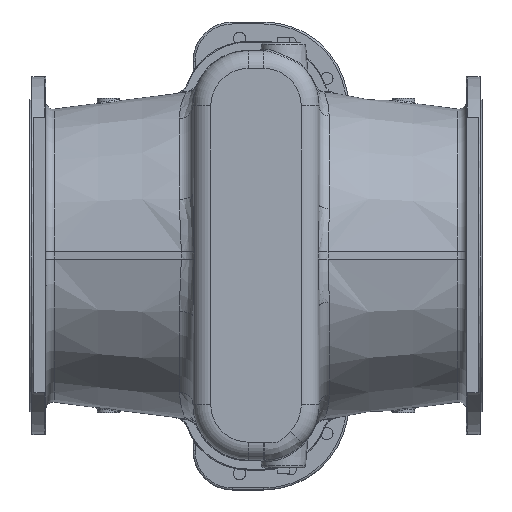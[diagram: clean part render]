
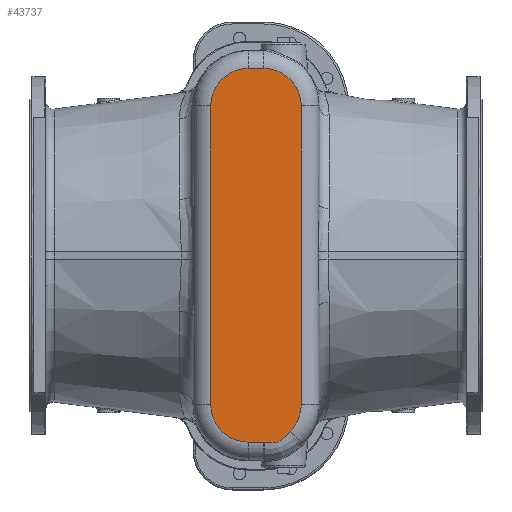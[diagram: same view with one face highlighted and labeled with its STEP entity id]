
A CAD part, top view. The second image highlights one B-rep face of the part: STEP entity #43737.
In plain terms, the highlighted planar face has unit normal (0, 0, 1).
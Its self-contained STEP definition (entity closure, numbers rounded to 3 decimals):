
#2569=B_SPLINE_CURVE_WITH_KNOTS('',3,(#88786,#88787,#88788,#88789,#88790,
#88791,#88792,#88793,#88794,#88795,#88796,#88797,#88798,#88799,#88800,#88801,
#88802,#88803,#88804,#88805,#88806,#88807,#88808,#88809),.UNSPECIFIED.,
 .F.,.F.,(4,1,1,1,1,1,1,1,1,1,1,1,1,1,1,1,1,1,1,1,1,4),(0.,
1.096,1.643,1.917,2.191,2.921,
3.104,3.195,3.287,3.652,4.017,
4.382,4.747,5.112,5.478,5.569,
5.66,5.843,6.025,6.208,6.573,
7.669),.UNSPECIFIED.);
#3604=PLANE('',#48049);
#5083=LINE('',#74711,#8034);
#5103=LINE('',#75232,#8054);
#6103=LINE('',#88782,#9054);
#6104=LINE('',#88814,#9055);
#8034=VECTOR('',#54917,10.);
#8054=VECTOR('',#55197,10.);
#9054=VECTOR('',#58241,10.);
#9055=VECTOR('',#58248,10.);
#11759=FACE_OUTER_BOUND('',#14563,.T.);
#14563=EDGE_LOOP('',(#37901,#37902,#37903,#37904,#37905,#37906,#37907,#37908,
#37909,#37910));
#17181=CIRCLE('',#48050,95.);
#17182=CIRCLE('',#48051,95.);
#17183=CIRCLE('',#48052,95.);
#17184=CIRCLE('',#48053,95.);
#17185=CIRCLE('',#48054,95.);
#19779=VERTEX_POINT('',#74708);
#19780=VERTEX_POINT('',#74710);
#19925=VERTEX_POINT('',#75229);
#19926=VERTEX_POINT('',#75231);
#21006=VERTEX_POINT('',#88779);
#21007=VERTEX_POINT('',#88781);
#21008=VERTEX_POINT('',#88783);
#21009=VERTEX_POINT('',#88785);
#21010=VERTEX_POINT('',#88811);
#21011=VERTEX_POINT('',#88813);
#24794=EDGE_CURVE('',#19779,#19780,#5083,.T.);
#24950=EDGE_CURVE('',#19925,#19926,#5103,.T.);
#26855=EDGE_CURVE('',#21006,#19779,#17181,.T.);
#26856=EDGE_CURVE('',#21007,#21006,#6103,.T.);
#26857=EDGE_CURVE('',#21008,#21007,#17182,.T.);
#26858=EDGE_CURVE('',#21009,#21008,#2569,.T.);
#26859=EDGE_CURVE('',#19926,#21009,#17183,.T.);
#26860=EDGE_CURVE('',#21010,#19925,#17184,.T.);
#26861=EDGE_CURVE('',#21011,#21010,#6104,.T.);
#26862=EDGE_CURVE('',#19780,#21011,#17185,.T.);
#37901=ORIENTED_EDGE('',*,*,#24794,.F.);
#37902=ORIENTED_EDGE('',*,*,#26855,.F.);
#37903=ORIENTED_EDGE('',*,*,#26856,.F.);
#37904=ORIENTED_EDGE('',*,*,#26857,.F.);
#37905=ORIENTED_EDGE('',*,*,#26858,.F.);
#37906=ORIENTED_EDGE('',*,*,#26859,.F.);
#37907=ORIENTED_EDGE('',*,*,#24950,.F.);
#37908=ORIENTED_EDGE('',*,*,#26860,.F.);
#37909=ORIENTED_EDGE('',*,*,#26861,.F.);
#37910=ORIENTED_EDGE('',*,*,#26862,.F.);
#43737=ADVANCED_FACE('',(#11759),#3604,.T.);
#48049=AXIS2_PLACEMENT_3D('',#88778,#58237,#58238);
#48050=AXIS2_PLACEMENT_3D('',#88780,#58239,#58240);
#48051=AXIS2_PLACEMENT_3D('',#88784,#58242,#58243);
#48052=AXIS2_PLACEMENT_3D('',#88810,#58244,#58245);
#48053=AXIS2_PLACEMENT_3D('',#88812,#58246,#58247);
#48054=AXIS2_PLACEMENT_3D('',#88815,#58249,#58250);
#54917=DIRECTION('',(0.,1.,0.));
#55197=DIRECTION('',(0.,-1.,0.));
#58237=DIRECTION('center_axis',(0.,0.,1.));
#58238=DIRECTION('ref_axis',(1.,0.,0.));
#58239=DIRECTION('center_axis',(0.,0.,-1.));
#58240=DIRECTION('ref_axis',(-0.707,-0.707,0.));
#58241=DIRECTION('',(-1.,0.,0.));
#58242=DIRECTION('center_axis',(0.,0.,-1.));
#58243=DIRECTION('ref_axis',(0.707,-0.707,0.));
#58244=DIRECTION('center_axis',(0.,0.,-1.));
#58245=DIRECTION('ref_axis',(0.707,-0.707,0.));
#58246=DIRECTION('center_axis',(0.,0.,-1.));
#58247=DIRECTION('ref_axis',(0.707,0.707,0.));
#58248=DIRECTION('',(1.,0.,0.));
#58249=DIRECTION('center_axis',(0.,0.,-1.));
#58250=DIRECTION('ref_axis',(-0.707,0.707,0.));
#74708=CARTESIAN_POINT('',(-115.,-380.,1020.));
#74710=CARTESIAN_POINT('',(-115.,380.,1020.));
#74711=CARTESIAN_POINT('',(-115.,-190.,1020.));
#75229=CARTESIAN_POINT('',(115.,380.,1020.));
#75231=CARTESIAN_POINT('',(115.,-380.,1020.));
#75232=CARTESIAN_POINT('',(115.,190.,1020.));
#88778=CARTESIAN_POINT('Origin',(0.,0.,
1020.));
#88779=CARTESIAN_POINT('',(-20.,-475.,1020.));
#88780=CARTESIAN_POINT('Origin',(-20.,-380.,1020.));
#88781=CARTESIAN_POINT('',(20.,-475.,1020.));
#88782=CARTESIAN_POINT('',(10.,-475.,1020.));
#88783=CARTESIAN_POINT('',(21.322,-474.991,1020.));
#88784=CARTESIAN_POINT('Origin',(20.,-380.,1020.));
#88785=CARTESIAN_POINT('',(87.287,-447.063,1020.));
#88786=CARTESIAN_POINT('Ctrl Pts',(87.287,-447.063,1020.));
#88787=CARTESIAN_POINT('Ctrl Pts',(84.709,-449.65,1020.));
#88788=CARTESIAN_POINT('Ctrl Pts',(80.961,-453.647,1020.));
#88789=CARTESIAN_POINT('Ctrl Pts',(76.587,-458.308,1020.));
#88790=CARTESIAN_POINT('Ctrl Pts',(74.05,-460.934,1020.));
#88791=CARTESIAN_POINT('Ctrl Pts',(71.043,-463.95,1020.));
#88792=CARTESIAN_POINT('Ctrl Pts',(68.139,-466.647,1020.));
#88793=CARTESIAN_POINT('Ctrl Pts',(65.528,-468.743,1020.));
#88794=CARTESIAN_POINT('Ctrl Pts',(64.559,-469.481,1020.));
#88795=CARTESIAN_POINT('Ctrl Pts',(63.086,-470.561,1020.));
#88796=CARTESIAN_POINT('Ctrl Pts',(60.796,-472.07,1020.));
#88797=CARTESIAN_POINT('Ctrl Pts',(57.549,-473.759,1020.));
#88798=CARTESIAN_POINT('Ctrl Pts',(54.103,-475.022,1020.));
#88799=CARTESIAN_POINT('Ctrl Pts',(50.522,-475.787,1020.));
#88800=CARTESIAN_POINT('Ctrl Pts',(46.854,-476.103,1020.));
#88801=CARTESIAN_POINT('Ctrl Pts',(44.118,-476.098,1020.));
#88802=CARTESIAN_POINT('Ctrl Pts',(42.294,-476.037,1020.));
#88803=CARTESIAN_POINT('Ctrl Pts',(41.079,-475.984,1020.));
#88804=CARTESIAN_POINT('Ctrl Pts',(39.561,-475.897,1020.));
#88805=CARTESIAN_POINT('Ctrl Pts',(37.739,-475.771,1020.));
#88806=CARTESIAN_POINT('Ctrl Pts',(35.31,-475.59,1020.));
#88807=CARTESIAN_POINT('Ctrl Pts',(29.841,-475.172,1020.));
#88808=CARTESIAN_POINT('Ctrl Pts',(24.973,-474.94,1020.));
#88809=CARTESIAN_POINT('Ctrl Pts',(21.322,-474.991,1020.));
#88810=CARTESIAN_POINT('Origin',(20.,-380.,1020.));
#88811=CARTESIAN_POINT('',(20.,475.,1020.));
#88812=CARTESIAN_POINT('Origin',(20.,380.,1020.));
#88813=CARTESIAN_POINT('',(-20.,475.,1020.));
#88814=CARTESIAN_POINT('',(-10.,475.,1020.));
#88815=CARTESIAN_POINT('Origin',(-20.,380.,1020.));
